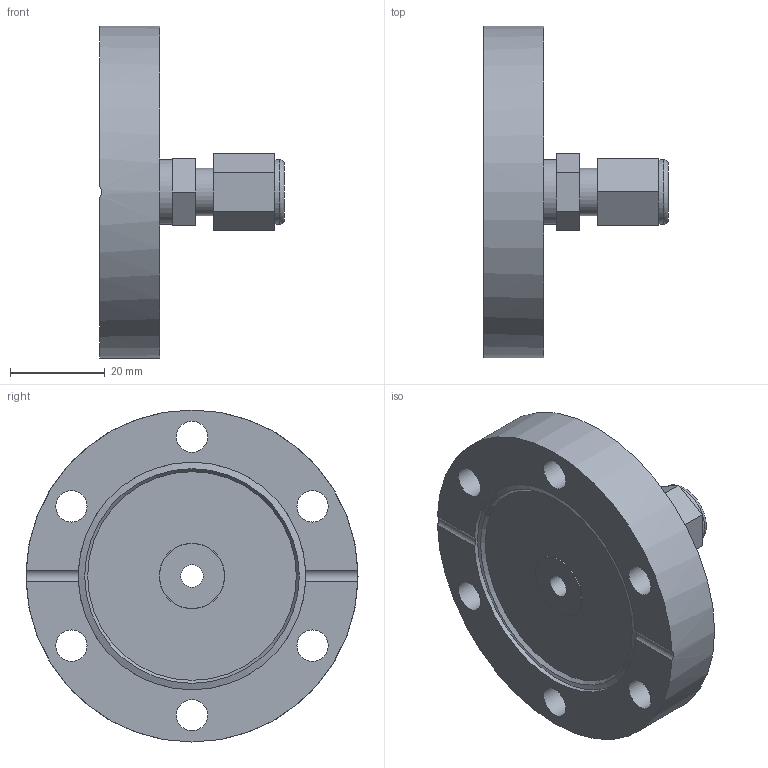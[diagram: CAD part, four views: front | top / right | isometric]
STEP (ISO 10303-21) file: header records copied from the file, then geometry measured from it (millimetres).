
FILE_DESCRIPTION( ( 'Unknown' ), '1' );
FILE_NAME( 'X:/Daten ( aktueller Bestand )/Projekte und Zeichnungen/Solid Edge/STP-Dateien/CF-Teile/7552-6.stp', 'Unknown', ( 'Unknown' ), ( 'Unknown' ), 'PSStep 14.0', 'Unknown', ' ' );
FILE_SCHEMA( ( 'AUTOMOTIVE_DESIGN { 1 0 10303 214 1 1 1 1 }' ) );
Length unit declared in the file: millimetre
Products named in the file (3): Assem1; 6x1-4; 7552-6.1
Assembly tree (2 placements, depth 2):
  Assem1
    6x1-4
    7552-6.1
Bounding box: 39 x 70 x 70 mm (x, y, z)
Volume: 47221.6 mm3; surface area: 14856.7 mm2
Topology: 2 solids, 2 shells, 42 faces, 105 edges, 72 vertices
Faces by surface type: plane 23, cylinder 16, cone 2, torus 1
Full cylindrical faces by diameter (mm): 4.8 x1, 6 x1, 6.6 x6, 10 x1, 13.6 x1, 13.7 x1, 13.8 x1, 48 x1, 70 x1
Entity records: 1562 total; most frequent: CARTESIAN_POINT 237, DIRECTION 198, ORIENTED_EDGE 156, EDGE_LOOP 80, AXIS2_PLACEMENT_3D 79, EDGE_CURVE 78, VERTEX_POINT 62, FACE_OUTER_BOUND 57
